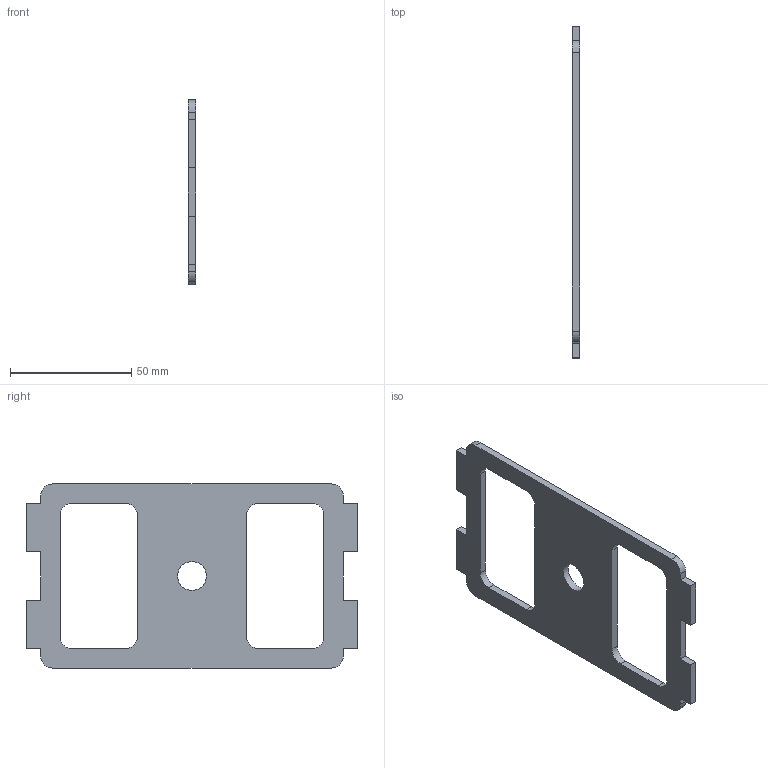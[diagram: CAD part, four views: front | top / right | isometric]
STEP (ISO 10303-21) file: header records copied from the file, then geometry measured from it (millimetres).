
FILE_DESCRIPTION(/* description */ (''),/* implementation_level */ '2;1');
FILE_NAME(/* name */ 'rear 2 v15.step',/* time_stamp */ '2023-09-02T21:54:36+03:00',/* author */ (''),/* organization */ (''),/* preprocessor_version */ 'ST-DEVELOPER v20',/* originating_system */ 'Autodesk Translation Framework v12.9.0.99',/* authorisation */ '');
FILE_SCHEMA (('AUTOMOTIVE_DESIGN { 1 0 10303 214 3 1 1 }'));
Length unit declared in the file: millimetre
Products named in the file (1): rear 2
Bounding box: 3 x 137 x 76 mm (x, y, z)
Volume: 18145.1 mm3; surface area: 14586.6 mm2
Topology: 1 solids, 1 shells, 43 faces, 123 edges, 82 vertices
Faces by surface type: plane 30, cylinder 13
Full cylindrical faces by diameter (mm): 12 x1
Entity records: 1448 total; most frequent: CARTESIAN_POINT 249, ORIENTED_EDGE 246, DIRECTION 237, EDGE_CURVE 123, LINE 97, VECTOR 97, VERTEX_POINT 82, AXIS2_PLACEMENT_3D 70
